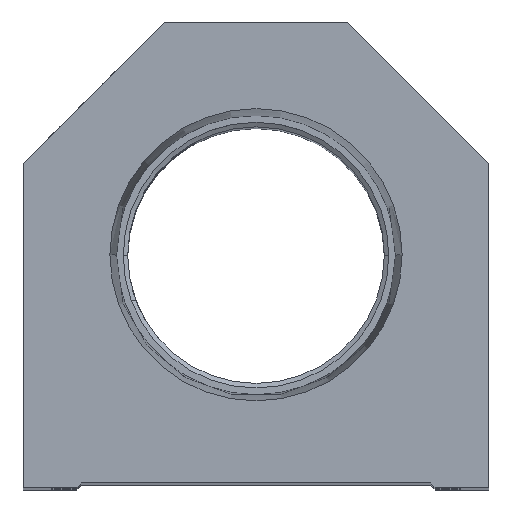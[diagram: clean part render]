
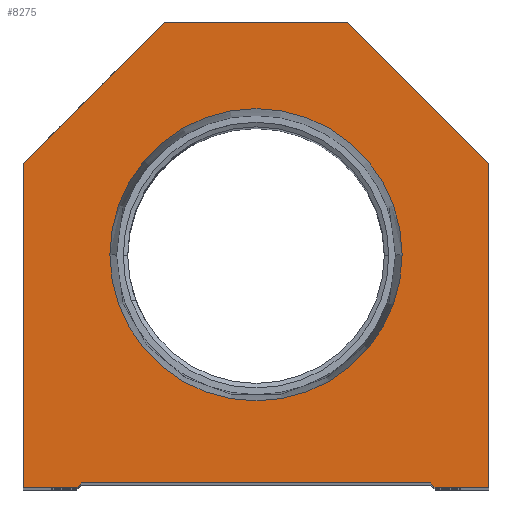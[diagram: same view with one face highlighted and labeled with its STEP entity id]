
A CAD part, top view. The second image highlights one B-rep face of the part: STEP entity #8275.
In plain terms, the highlighted planar face has unit normal (0, 0, 1).
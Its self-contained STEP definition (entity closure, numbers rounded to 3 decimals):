
#114 = EDGE_LOOP ( 'NONE', ( #8640, #749, #1433, #13570, #10080, #9386, #10044, #14857, #13513, #10093 ) ) ;
#263 = CIRCLE ( 'NONE', #11741, 15.947 ) ;
#364 = DIRECTION ( 'NONE',  ( -0.707, 0.707, 0. ) ) ;
#621 = DIRECTION ( 'NONE',  ( 0., 0., 1. ) ) ;
#649 = CARTESIAN_POINT ( 'NONE',  ( 19.55, 0., 0. ) ) ;
#749 = ORIENTED_EDGE ( 'NONE', *, *, #7632, .T. ) ;
#1188 = EDGE_CURVE ( 'NONE', #10711, #16878, #16748, .T. ) ;
#1239 = EDGE_CURVE ( 'NONE', #3837, #9591, #12668, .T. ) ;
#1244 = VERTEX_POINT ( 'NONE', #649 ) ;
#1404 = CARTESIAN_POINT ( 'NONE',  ( 19.05, 0.5, 0. ) ) ;
#1433 = ORIENTED_EDGE ( 'NONE', *, *, #1188, .T. ) ;
#1630 = LINE ( 'NONE', #6975, #16962 ) ;
#1780 = ORIENTED_EDGE ( 'NONE', *, *, #3222, .F. ) ;
#2037 = VECTOR ( 'NONE', #8891, 1000. ) ;
#2294 = CARTESIAN_POINT ( 'NONE',  ( -25.4, 0., 0. ) ) ;
#2442 = DIRECTION ( 'NONE',  ( 0.707, -0.707, 0. ) ) ;
#2513 = CARTESIAN_POINT ( 'NONE',  ( -15.947, 25.4, 0. ) ) ;
#2574 = DIRECTION ( 'NONE',  ( 0.707, 0.707, 0. ) ) ;
#2725 = VECTOR ( 'NONE', #5860, 1000. ) ;
#2802 = EDGE_CURVE ( 'NONE', #3063, #3837, #1630, .T. ) ;
#2923 = DIRECTION ( 'NONE',  ( 1., 0., 0. ) ) ;
#3055 = EDGE_CURVE ( 'NONE', #9591, #10124, #4395, .T. ) ;
#3063 = VERTEX_POINT ( 'NONE', #13992 ) ;
#3135 = VECTOR ( 'NONE', #2574, 1000. ) ;
#3222 = EDGE_CURVE ( 'NONE', #10422, #16074, #263, .T. ) ;
#3226 = CARTESIAN_POINT ( 'NONE',  ( -19.05, 0.5, 0. ) ) ;
#3369 = LINE ( 'NONE', #7401, #2037 ) ;
#3837 = VERTEX_POINT ( 'NONE', #8125 ) ;
#3843 = CARTESIAN_POINT ( 'NONE',  ( 0., 25.4, 0. ) ) ;
#4011 = DIRECTION ( 'NONE',  ( 0., 0., 1. ) ) ;
#4104 = DIRECTION ( 'NONE',  ( 1., 0., 0. ) ) ;
#4219 = DIRECTION ( 'NONE',  ( -0.707, -0.707, 0. ) ) ;
#4395 = LINE ( 'NONE', #9950, #10887 ) ;
#4731 = DIRECTION ( 'NONE',  ( 1., 0., 0. ) ) ;
#5380 = LINE ( 'NONE', #6701, #12145 ) ;
#5665 = CIRCLE ( 'NONE', #7606, 15.947 ) ;
#5694 = CARTESIAN_POINT ( 'NONE',  ( 10., 50.8, 0. ) ) ;
#5744 = FACE_OUTER_BOUND ( 'NONE', #114, .T. ) ;
#5796 = VERTEX_POINT ( 'NONE', #10445 ) ;
#5860 = DIRECTION ( 'NONE',  ( 1., 0., 0. ) ) ;
#5966 = DIRECTION ( 'NONE',  ( 0., 0., 1. ) ) ;
#6106 = CARTESIAN_POINT ( 'NONE',  ( 25.4, 0., 0. ) ) ;
#6264 = CARTESIAN_POINT ( 'NONE',  ( 19.05, 0., 0. ) ) ;
#6284 = LINE ( 'NONE', #10278, #9395 ) ;
#6613 = VECTOR ( 'NONE', #14622, 1000. ) ;
#6701 = CARTESIAN_POINT ( 'NONE',  ( -19.05, 0., 0. ) ) ;
#6780 = AXIS2_PLACEMENT_3D ( 'NONE', #14028, #621, #14176 ) ;
#6842 = EDGE_CURVE ( 'NONE', #1244, #12540, #10423, .T. ) ;
#6975 = CARTESIAN_POINT ( 'NONE',  ( 25.4, 35.4, 0. ) ) ;
#7068 = FACE_BOUND ( 'NONE', #16451, .T. ) ;
#7401 = CARTESIAN_POINT ( 'NONE',  ( -25.4, 0., 0. ) ) ;
#7606 = AXIS2_PLACEMENT_3D ( 'NONE', #3843, #4011, #4104 ) ;
#7632 = EDGE_CURVE ( 'NONE', #5796, #10711, #12353, .T. ) ;
#8125 = CARTESIAN_POINT ( 'NONE',  ( 10., 50.8, 0. ) ) ;
#8171 = CARTESIAN_POINT ( 'NONE',  ( 25.4, 0., 0. ) ) ;
#8275 = ADVANCED_FACE ( 'NONE', ( #7068, #5744 ), #11147, .T. ) ;
#8640 = ORIENTED_EDGE ( 'NONE', *, *, #12491, .T. ) ;
#8665 = DIRECTION ( 'NONE',  ( -1., 0., 0. ) ) ;
#8891 = DIRECTION ( 'NONE',  ( 0., -1., 0. ) ) ;
#9386 = ORIENTED_EDGE ( 'NONE', *, *, #12229, .T. ) ;
#9395 = VECTOR ( 'NONE', #2442, 1000. ) ;
#9485 = VERTEX_POINT ( 'NONE', #2294 ) ;
#9591 = VERTEX_POINT ( 'NONE', #14326 ) ;
#9950 = CARTESIAN_POINT ( 'NONE',  ( -25.4, 35.4, 0. ) ) ;
#10044 = ORIENTED_EDGE ( 'NONE', *, *, #2802, .T. ) ;
#10080 = ORIENTED_EDGE ( 'NONE', *, *, #6842, .T. ) ;
#10093 = ORIENTED_EDGE ( 'NONE', *, *, #12352, .T. ) ;
#10098 = LINE ( 'NONE', #6106, #12446 ) ;
#10123 = CARTESIAN_POINT ( 'NONE',  ( 0., 25.4, 0. ) ) ;
#10124 = VERTEX_POINT ( 'NONE', #11870 ) ;
#10180 = DIRECTION ( 'NONE',  ( 0., 1., 0. ) ) ;
#10278 = CARTESIAN_POINT ( 'NONE',  ( 9.775, 9.775, 0. ) ) ;
#10320 = VECTOR ( 'NONE', #8665, 1000. ) ;
#10422 = VERTEX_POINT ( 'NONE', #14396 ) ;
#10423 = LINE ( 'NONE', #6264, #6613 ) ;
#10445 = CARTESIAN_POINT ( 'NONE',  ( -19.55, 0., 0. ) ) ;
#10711 = VERTEX_POINT ( 'NONE', #15947 ) ;
#10846 = CARTESIAN_POINT ( 'NONE',  ( -9.775, 9.775, 0. ) ) ;
#10887 = VECTOR ( 'NONE', #4219, 1000. ) ;
#11147 = PLANE ( 'NONE',  #6780 ) ;
#11741 = AXIS2_PLACEMENT_3D ( 'NONE', #10123, #5966, #4731 ) ;
#11867 = EDGE_CURVE ( 'NONE', #16074, #10422, #5665, .T. ) ;
#11870 = CARTESIAN_POINT ( 'NONE',  ( -25.4, 35.4, 0. ) ) ;
#12145 = VECTOR ( 'NONE', #2923, 1000. ) ;
#12229 = EDGE_CURVE ( 'NONE', #12540, #3063, #10098, .T. ) ;
#12352 = EDGE_CURVE ( 'NONE', #10124, #9485, #3369, .T. ) ;
#12353 = LINE ( 'NONE', #10846, #3135 ) ;
#12446 = VECTOR ( 'NONE', #10180, 1000. ) ;
#12491 = EDGE_CURVE ( 'NONE', #9485, #5796, #5380, .T. ) ;
#12540 = VERTEX_POINT ( 'NONE', #8171 ) ;
#12668 = LINE ( 'NONE', #5694, #10320 ) ;
#13490 = ORIENTED_EDGE ( 'NONE', *, *, #11867, .F. ) ;
#13513 = ORIENTED_EDGE ( 'NONE', *, *, #3055, .T. ) ;
#13570 = ORIENTED_EDGE ( 'NONE', *, *, #15149, .T. ) ;
#13992 = CARTESIAN_POINT ( 'NONE',  ( 25.4, 35.4, 0. ) ) ;
#14028 = CARTESIAN_POINT ( 'NONE',  ( 0., 0., 0. ) ) ;
#14176 = DIRECTION ( 'NONE',  ( 1., 0., 0. ) ) ;
#14326 = CARTESIAN_POINT ( 'NONE',  ( -10., 50.8, 0. ) ) ;
#14396 = CARTESIAN_POINT ( 'NONE',  ( 15.947, 25.4, 0. ) ) ;
#14622 = DIRECTION ( 'NONE',  ( 1., 0., 0. ) ) ;
#14857 = ORIENTED_EDGE ( 'NONE', *, *, #1239, .T. ) ;
#15149 = EDGE_CURVE ( 'NONE', #16878, #1244, #6284, .T. ) ;
#15947 = CARTESIAN_POINT ( 'NONE',  ( -19.05, 0.5, 0. ) ) ;
#16074 = VERTEX_POINT ( 'NONE', #2513 ) ;
#16451 = EDGE_LOOP ( 'NONE', ( #1780, #13490 ) ) ;
#16748 = LINE ( 'NONE', #3226, #2725 ) ;
#16878 = VERTEX_POINT ( 'NONE', #1404 ) ;
#16962 = VECTOR ( 'NONE', #364, 1000. ) ;
